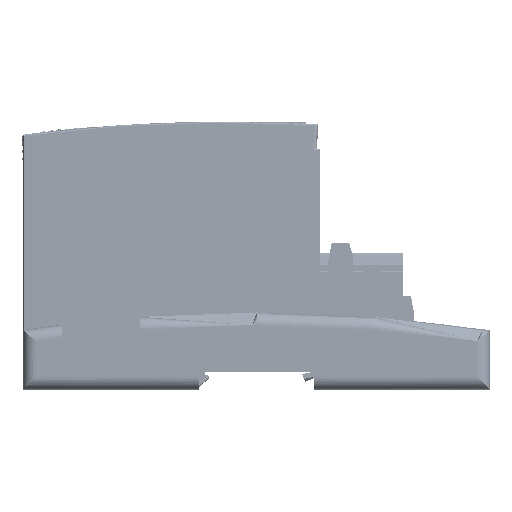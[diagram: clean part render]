
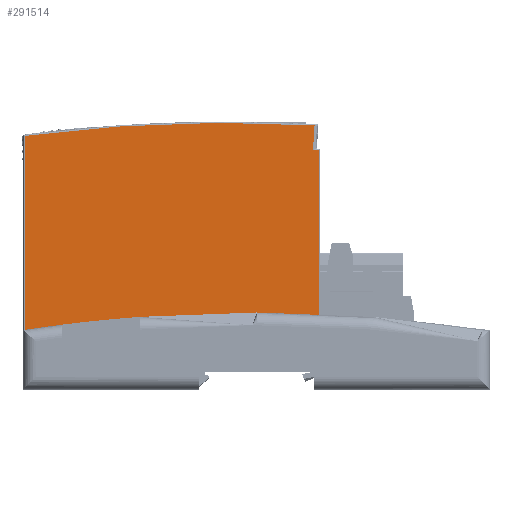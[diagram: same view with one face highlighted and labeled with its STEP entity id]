
A CAD part, top view. The second image highlights one B-rep face of the part: STEP entity #291514.
In plain terms, the highlighted planar face has unit normal (0, 0, 1).
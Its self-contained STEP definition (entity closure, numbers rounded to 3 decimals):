
#29647=DIRECTION('',(1.,0.,0.));
#29648=VECTOR('',#29647,17.321);
#29649=CARTESIAN_POINT('',(53.94,21.1,-0.2));
#29650=LINE('',#29649,#29648);
#29651=CARTESIAN_POINT('',(62.6,16.1,-0.2));
#29652=DIRECTION('',(0.,0.,1.));
#29653=DIRECTION('',(0.866,0.5,0.));
#29654=AXIS2_PLACEMENT_3D('',#29651,#29652,#29653);
#29656=DIRECTION('',(1.,0.,0.));
#29657=VECTOR('',#29656,0.3);
#29658=CARTESIAN_POINT('',(33.3,21.1,-0.2));
#29659=LINE('',#29658,#29657);
#29660=DIRECTION('',(-1.,0.,0.));
#29661=VECTOR('',#29660,25.);
#29662=CARTESIAN_POINT('',(28.6,21.1,-0.2));
#29663=LINE('',#29662,#29661);
#29664=DIRECTION('',(0.,1.,0.));
#29665=VECTOR('',#29664,2.);
#29666=CARTESIAN_POINT('',(3.6,21.1,-0.2));
#29667=LINE('',#29666,#29665);
#29668=CARTESIAN_POINT('',(78.144,-496.603,
-0.2));
#29669=DIRECTION('',(0.,0.,-1.));
#29670=DIRECTION('',(-0.129,0.992,0.));
#29671=AXIS2_PLACEMENT_3D('',#29668,#29669,#29670);
#29673=CARTESIAN_POINT('',(203.417,92.8,-0.2));
#29674=DIRECTION('',(0.,0.,1.));
#29675=DIRECTION('',(-0.995,0.1,0.));
#29676=AXIS2_PLACEMENT_3D('',#29673,#29674,#29675);
#29678=DIRECTION('',(1.,0.,0.));
#29679=VECTOR('',#29678,38.783);
#29680=CARTESIAN_POINT('',(113.917,21.1,-0.2));
#29681=LINE('',#29680,#29679);
#29682=DIRECTION('',(0.,-1.,0.));
#29683=VECTOR('',#29682,2.4);
#29684=CARTESIAN_POINT('',(152.7,21.1,-0.2));
#29685=LINE('',#29684,#29683);
#29686=DIRECTION('',(-1.,0.,0.));
#29687=VECTOR('',#29686,120.598);
#29688=CARTESIAN_POINT('',(152.7,18.7,-0.2));
#29689=LINE('',#29688,#29687);
#31131=DIRECTION('',(1.,0.,0.));
#31132=VECTOR('',#31131,3.);
#31133=CARTESIAN_POINT('',(0.6,23.1,-0.2));
#31134=LINE('',#31133,#31132);
#31159=DIRECTION('',(0.,-1.,0.));
#31160=VECTOR('',#31159,74.761);
#31161=CARTESIAN_POINT('',(0.6,97.861,
-0.2));
#31162=LINE('',#31161,#31160);
#31235=DIRECTION('',(0.,1.,0.));
#31236=VECTOR('',#31235,2.);
#31237=CARTESIAN_POINT('',(28.6,21.1,-0.2));
#31238=LINE('',#31237,#31236);
#31248=DIRECTION('',(1.,0.,0.));
#31249=VECTOR('',#31248,5.);
#31250=CARTESIAN_POINT('',(28.6,23.1,-0.2));
#31251=LINE('',#31250,#31249);
#31269=DIRECTION('',(0.,-1.,0.));
#31270=VECTOR('',#31269,2.);
#31271=CARTESIAN_POINT('',(33.6,23.1,-0.2));
#31272=LINE('',#31271,#31270);
#32561=DIRECTION('',(-1.,0.,0.));
#32562=VECTOR('',#32561,1.999);
#32563=CARTESIAN_POINT('',(113.917,92.3,-0.2));
#32564=LINE('',#32563,#32562);
#32575=DIRECTION('',(0.,1.,0.));
#32576=VECTOR('',#32575,71.2);
#32577=CARTESIAN_POINT('',(113.917,21.1,-0.2));
#32578=LINE('',#32577,#32576);
#32583=DIRECTION('',(0.001,-1.,0.));
#32584=VECTOR('',#32583,2.3);
#32585=CARTESIAN_POINT('',(32.1,21.,-0.2));
#32586=LINE('',#32585,#32584);
#32591=DIRECTION('',(-1.,0.,0.));
#32592=VECTOR('',#32591,1.2);
#32593=CARTESIAN_POINT('',(33.3,21.,-0.2));
#32594=LINE('',#32593,#32592);
#32642=DIRECTION('',(0.,1.,0.));
#32643=VECTOR('',#32642,0.1);
#32644=CARTESIAN_POINT('',(33.3,21.,-0.2));
#32645=LINE('',#32644,#32643);
#203543=CARTESIAN_POINT('',(152.7,18.7,-0.2));
#203544=CARTESIAN_POINT('',(32.102,18.7,-0.2));
#203545=VERTEX_POINT('',#203543);
#203546=VERTEX_POINT('',#203544);
#203547=CARTESIAN_POINT('',(152.7,21.1,-0.2));
#203548=VERTEX_POINT('',#203547);
#205942=CARTESIAN_POINT('',(3.6,21.1,-0.2));
#205944=VERTEX_POINT('',#205942);
#205947=CARTESIAN_POINT('',(28.6,21.1,-0.2));
#205949=VERTEX_POINT('',#205947);
#205952=CARTESIAN_POINT('',(3.6,23.1,-0.2));
#205954=VERTEX_POINT('',#205952);
#206056=CARTESIAN_POINT('',(28.6,23.1,-0.2));
#206057=CARTESIAN_POINT('',(33.6,23.1,-0.2));
#206058=VERTEX_POINT('',#206056);
#206059=VERTEX_POINT('',#206057);
#206060=CARTESIAN_POINT('',(0.6,23.1,-0.2));
#206061=VERTEX_POINT('',#206060);
#206062=CARTESIAN_POINT('',(0.6,97.861,
-0.2));
#206063=VERTEX_POINT('',#206062);
#206064=CARTESIAN_POINT('',(112.373,101.92,
-0.2));
#206065=VERTEX_POINT('',#206064);
#206066=CARTESIAN_POINT('',(113.917,92.3,-0.2));
#206067=CARTESIAN_POINT('',(111.918,92.3,
-0.2));
#206068=VERTEX_POINT('',#206066);
#206069=VERTEX_POINT('',#206067);
#246988=CARTESIAN_POINT('',(33.3,21.,-0.2));
#246989=CARTESIAN_POINT('',(33.3,21.1,-0.2));
#246990=VERTEX_POINT('',#246988);
#246991=VERTEX_POINT('',#246989);
#247002=CARTESIAN_POINT('',(32.1,21.,-0.2));
#247003=VERTEX_POINT('',#247002);
#247709=CARTESIAN_POINT('',(71.26,21.1,-0.2));
#247711=VERTEX_POINT('',#247709);
#247713=CARTESIAN_POINT('',(53.94,21.1,-0.2));
#247715=VERTEX_POINT('',#247713);
#247716=CARTESIAN_POINT('',(113.917,21.1,-0.2));
#247717=VERTEX_POINT('',#247716);
#247724=CARTESIAN_POINT('',(33.6,21.1,-0.2));
#247725=VERTEX_POINT('',#247724);
#291471=CARTESIAN_POINT('',(92.4,19.9,-0.2));
#291472=DIRECTION('',(0.,0.,1.));
#291473=DIRECTION('',(1.,0.,0.));
#291474=AXIS2_PLACEMENT_3D('',#291471,#291472,#291473);
#291475=PLANE('',#291474);
#291476=ORIENTED_EDGE('',*,*,#283656,.T.);
#291478=ORIENTED_EDGE('',*,*,#291477,.F.);
#291480=ORIENTED_EDGE('',*,*,#291479,.F.);
#291482=ORIENTED_EDGE('',*,*,#291481,.F.);
#291484=ORIENTED_EDGE('',*,*,#291483,.T.);
#291486=ORIENTED_EDGE('',*,*,#291485,.T.);
#291488=ORIENTED_EDGE('',*,*,#291487,.F.);
#291490=ORIENTED_EDGE('',*,*,#291489,.F.);
#291492=ORIENTED_EDGE('',*,*,#291491,.T.);
#291493=ORIENTED_EDGE('',*,*,#291462,.T.);
#291495=ORIENTED_EDGE('',*,*,#291494,.F.);
#291497=ORIENTED_EDGE('',*,*,#291496,.F.);
#291498=ORIENTED_EDGE('',*,*,#283630,.T.);
#291499=ORIENTED_EDGE('',*,*,#283597,.T.);
#291500=ORIENTED_EDGE('',*,*,#284533,.T.);
#291502=ORIENTED_EDGE('',*,*,#291501,.F.);
#291504=ORIENTED_EDGE('',*,*,#291503,.F.);
#291506=ORIENTED_EDGE('',*,*,#291505,.T.);
#291507=EDGE_LOOP('',(#291476,#291478,#291480,#291482,#291484,#291486,#291488,
#291490,#291492,#291493,#291495,#291497,#291498,#291499,#291500,#291502,#291504,
#291506));
#291508=FACE_OUTER_BOUND('',#291507,.F.);
#291509=ORIENTED_EDGE('',*,*,#283646,.T.);
#291511=ORIENTED_EDGE('',*,*,#291510,.T.);
#291512=EDGE_LOOP('',(#291509,#291511));
#291513=FACE_BOUND('',#291512,.F.);
#29655=CIRCLE('',#29654,10.);
#29672=CIRCLE('',#29671,599.5);
#29677=CIRCLE('',#29676,91.5);
#283597=EDGE_CURVE('',#203548,#203545,#29685,.T.);
#283630=EDGE_CURVE('',#247717,#203548,#29681,.T.);
#283646=EDGE_CURVE('',#247715,#247711,#29650,.T.);
#283656=EDGE_CURVE('',#246991,#247725,#29659,.T.);
#284533=EDGE_CURVE('',#203545,#203546,#29689,.T.);
#291462=EDGE_CURVE('',#206065,#206069,#29677,.T.);
#291477=EDGE_CURVE('',#206059,#247725,#31272,.T.);
#291479=EDGE_CURVE('',#206058,#206059,#31251,.T.);
#291481=EDGE_CURVE('',#205949,#206058,#31238,.T.);
#291483=EDGE_CURVE('',#205949,#205944,#29663,.T.);
#291485=EDGE_CURVE('',#205944,#205954,#29667,.T.);
#291487=EDGE_CURVE('',#206061,#205954,#31134,.T.);
#291489=EDGE_CURVE('',#206063,#206061,#31162,.T.);
#291491=EDGE_CURVE('',#206063,#206065,#29672,.T.);
#291494=EDGE_CURVE('',#206068,#206069,#32564,.T.);
#291496=EDGE_CURVE('',#247717,#206068,#32578,.T.);
#291501=EDGE_CURVE('',#247003,#203546,#32586,.T.);
#291503=EDGE_CURVE('',#246990,#247003,#32594,.T.);
#291505=EDGE_CURVE('',#246990,#246991,#32645,.T.);
#291510=EDGE_CURVE('',#247711,#247715,#29655,.T.);
#291514=ADVANCED_FACE('',(#291508,#291513),#291475,.T.);
